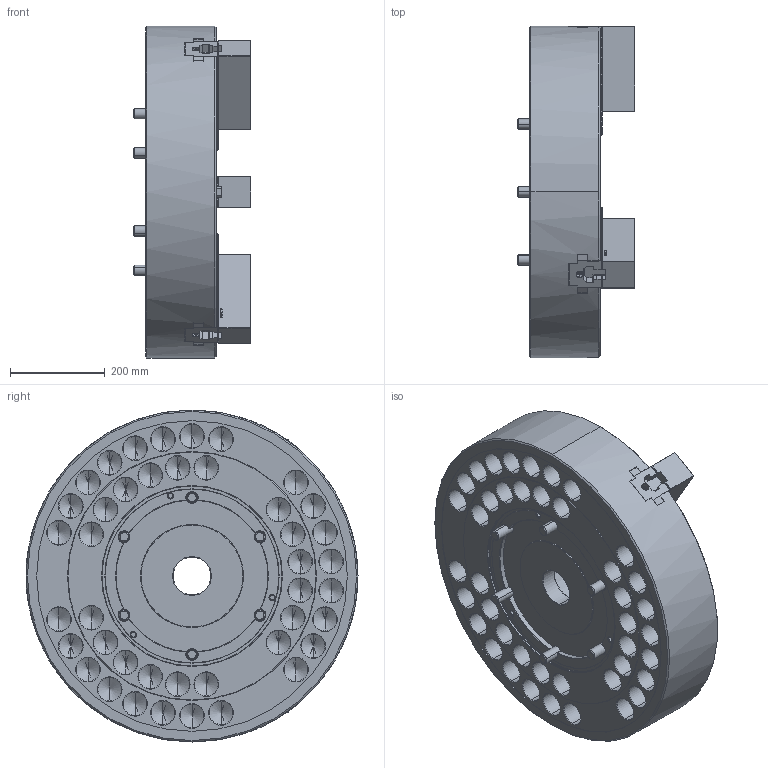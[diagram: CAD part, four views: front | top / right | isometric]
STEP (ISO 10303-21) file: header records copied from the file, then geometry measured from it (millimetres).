
FILE_DESCRIPTION (( 'STEP AP214' ), '1' );
FILE_NAME ('HCL_B-28.STEP', '2026-01-22T05:31:48', ( '' ), ( '' ), 'SwSTEP 2.0', 'SolidWorks 2022', '' );
FILE_SCHEMA (( 'AUTOMOTIVE_DESIGN' ));
Length unit declared in the file: millimetre
Products named in the file (11): Copy of 61P329613^HP用3Dモデル_B-28_61P264033; Copy of 0030106016^HP用3Dモデル_B-28_61P264033; Copy of P42577^HP用3Dモデル_B-28_61P264033; Copy of P32262^HP用3Dモデル_B-28_61P264033; Copy of 0030122150^HP用3Dモデル_B-28_61P264033; HCL_B-28; Copy of 0230004700^HP用3Dモデル_B-28_61P264033; Copy of 0030120060^HP用3Dモデル_B-28_61P264033; Copy of 61P809786^HP用3Dモデル_B-28_61P264033_社外提出用; Copy of 61P405602^HP用3Dモデル_B-28_61P264033; Part6^HP用3Dモデル_B-28_61P264033
Assembly tree (29 placements, depth 2):
  HCL_B-28
    Copy of P32262^HP用3Dモデル_B-28_61P264033  x3
    Copy of 61P405602^HP用3Dモデル_B-28_61P264033  x3
    Copy of 61P809786^HP用3Dモデル_B-28_61P264033_社外提出用
    Copy of 61P329613^HP用3Dモデル_B-28_61P264033
    Copy of P42577^HP用3Dモデル_B-28_61P264033
    Copy of 0030120060^HP用3Dモデル_B-28_61P264033  x6
    Copy of 0030122150^HP用3Dモデル_B-28_61P264033  x6
    Copy of 0230004700^HP用3Dモデル_B-28_61P264033
    Copy of 0030106016^HP用3Dモデル_B-28_61P264033  x6
    Part6^HP用3Dモデル_B-28_61P264033
Bounding box: 248 x 700 x 700 mm (x, y, z)
Volume: 46333478.1 mm3; surface area: 2854484.6 mm2
Topology: 29 solids, 35 shells, 8905 faces, 25278 edges, 16596 vertices
Faces by surface type: plane 5410, cylinder 1739, bspline 985, cone 685, torus 78, sphere 8
Entity records: 256052 total; most frequent: CARTESIAN_POINT 82094, ORIENTED_EDGE 39534, DIRECTION 30853, EDGE_CURVE 19767, LINE 14421, VECTOR 14421, VERTEX_POINT 13040, AXIS2_PLACEMENT_3D 8216
